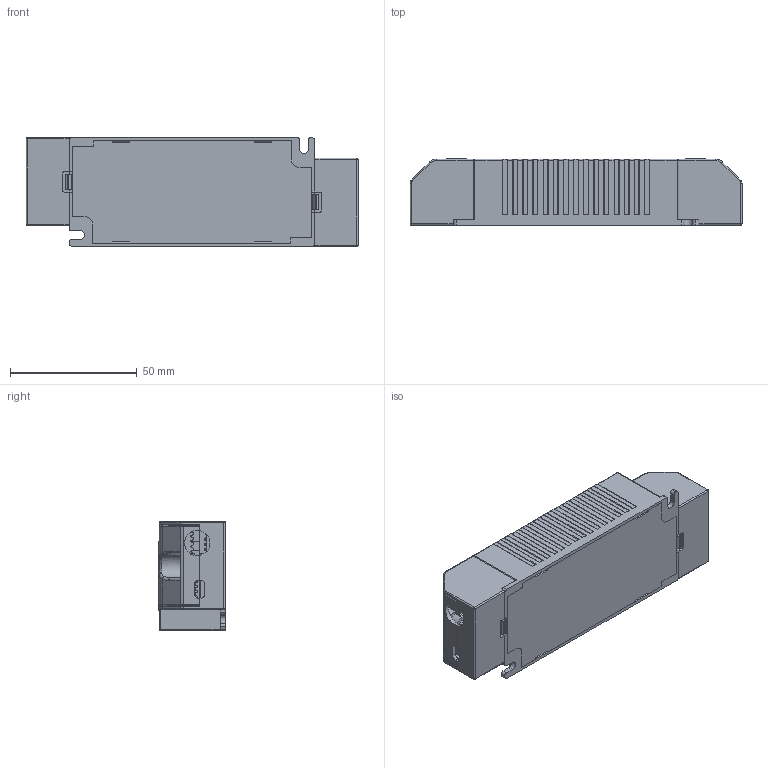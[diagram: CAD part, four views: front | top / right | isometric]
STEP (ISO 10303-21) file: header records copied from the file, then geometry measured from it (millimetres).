
FILE_DESCRIPTION (( 'STEP AP203' ), '1' );
FILE_NAME ('131x43x26.STEP', '2019-11-26T13:48:24', ( '' ), ( '' ), 'SwSTEP 2.0', 'SolidWorks 2014', '' );
FILE_SCHEMA (( 'CONFIG_CONTROL_DESIGN' ));
Length unit declared in the file: millimetre
Products named in the file (1): 131x43x26
Bounding box: 131 x 26.15 x 43 mm (x, y, z)
Volume: 53709.9 mm3; surface area: 67752.2 mm2
Topology: 13 solids, 13 shells, 1601 faces, 4368 edges, 2810 vertices
Faces by surface type: plane 994, cylinder 486, bspline 103, cone 18
Entity records: 52556 total; most frequent: CARTESIAN_POINT 12302, ORIENTED_EDGE 8602, DIRECTION 8078, EDGE_CURVE 4301, VECTOR 3118, LINE 3118, VERTEX_POINT 2810, AXIS2_PLACEMENT_3D 2480
